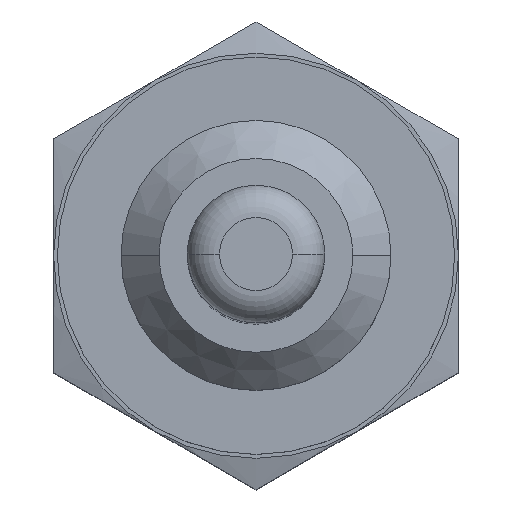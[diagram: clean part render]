
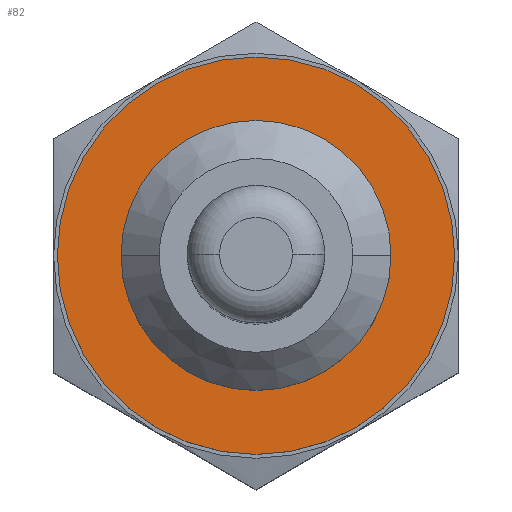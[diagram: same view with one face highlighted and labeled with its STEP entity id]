
A CAD part, top view. The second image highlights one B-rep face of the part: STEP entity #82.
In plain terms, the highlighted planar face has unit normal (0, 0, 1).
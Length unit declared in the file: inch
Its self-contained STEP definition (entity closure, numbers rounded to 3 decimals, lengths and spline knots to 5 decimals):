
#79 = EDGE_CURVE ( 'NONE', #350, #349, #606, .T. ) ;
#82 = ADVANCED_FACE ( 'NONE', ( #602, #601 ), #600, .F. ) ;
#83 = EDGE_LOOP ( 'NONE', ( #138, #139 ) ) ;
#138 = ORIENTED_EDGE ( 'NONE', *, *, #348, .F. ) ;
#139 = ORIENTED_EDGE ( 'NONE', *, *, #79, .F. ) ;
#140 = EDGE_LOOP ( 'NONE', ( #141, #142 ) ) ;
#141 = ORIENTED_EDGE ( 'NONE', *, *, #353, .T. ) ;
#142 = ORIENTED_EDGE ( 'NONE', *, *, #143, .T. ) ;
#143 = EDGE_CURVE ( 'NONE', #374, #426, #688, .T. ) ;
#348 = EDGE_CURVE ( 'NONE', #349, #350, #1130, .T. ) ;
#349 = VERTEX_POINT ( 'NONE', #1122 ) ;
#350 = VERTEX_POINT ( 'NONE', #1121 ) ;
#353 = EDGE_CURVE ( 'NONE', #426, #374, #1116, .T. ) ;
#374 = VERTEX_POINT ( 'NONE', #1135 ) ;
#426 = VERTEX_POINT ( 'NONE', #1231 ) ;
#596 = DIRECTION ( 'NONE',  ( -1., 0., 0. ) ) ;
#597 = DIRECTION ( 'NONE',  ( 0., 0., -1. ) ) ;
#598 = CARTESIAN_POINT ( 'NONE',  ( 0., 0.182, -1.78 ) ) ;
#599 = AXIS2_PLACEMENT_3D ( 'NONE', #598, #597, #596 ) ;
#600 = PLANE ( 'NONE',  #599 ) ;
#601 = FACE_OUTER_BOUND ( 'NONE', #140, .T. ) ;
#602 = FACE_BOUND ( 'NONE', #83, .T. ) ;
#603 = DIRECTION ( 'NONE',  ( 1., 0., 0. ) ) ;
#604 = DIRECTION ( 'NONE',  ( 0., 0., 1. ) ) ;
#605 = AXIS2_PLACEMENT_3D ( 'NONE', #611, #604, #603 ) ;
#606 = CIRCLE ( 'NONE', #605, 0.182 ) ;
#611 = CARTESIAN_POINT ( 'NONE',  ( 0., 0., -1.78 ) ) ;
#686 = DIRECTION ( 'NONE',  ( 0., 0., 1. ) ) ;
#687 = AXIS2_PLACEMENT_3D ( 'NONE', #694, #686, #739 ) ;
#688 = CIRCLE ( 'NONE', #687, 0.368 ) ;
#694 = CARTESIAN_POINT ( 'NONE',  ( 0., 0., -1.78 ) ) ;
#739 = DIRECTION ( 'NONE',  ( 1., 0., 0. ) ) ;
#1112 = DIRECTION ( 'NONE',  ( 1., 0., 0. ) ) ;
#1113 = DIRECTION ( 'NONE',  ( 0., 0., 1. ) ) ;
#1114 = CARTESIAN_POINT ( 'NONE',  ( 0., 0., -1.78 ) ) ;
#1115 = AXIS2_PLACEMENT_3D ( 'NONE', #1114, #1113, #1112 ) ;
#1116 = CIRCLE ( 'NONE', #1115, 0.368 ) ;
#1121 = CARTESIAN_POINT ( 'NONE',  ( -0.182, 0., -1.78 ) ) ;
#1122 = CARTESIAN_POINT ( 'NONE',  ( 0.182, 0., -1.78 ) ) ;
#1123 = DIRECTION ( 'NONE',  ( 1., 0., 0. ) ) ;
#1124 = DIRECTION ( 'NONE',  ( 0., 0., 1. ) ) ;
#1125 = CARTESIAN_POINT ( 'NONE',  ( 0., 0., -1.78 ) ) ;
#1126 = AXIS2_PLACEMENT_3D ( 'NONE', #1125, #1124, #1123 ) ;
#1130 = CIRCLE ( 'NONE', #1126, 0.182 ) ;
#1135 = CARTESIAN_POINT ( 'NONE',  ( -0.368, 0., -1.78 ) ) ;
#1231 = CARTESIAN_POINT ( 'NONE',  ( 0.368, 0., -1.78 ) ) ;
